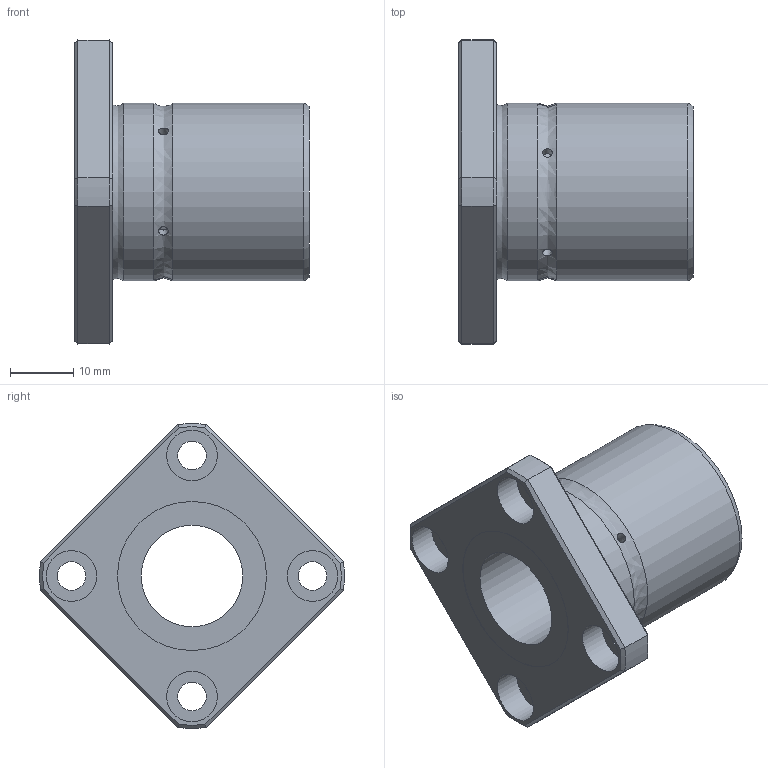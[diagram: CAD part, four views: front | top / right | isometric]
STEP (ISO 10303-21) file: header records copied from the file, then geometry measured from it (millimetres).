
FILE_DESCRIPTION((''),'2;1');
FILE_NAME('D:\製品 (図面)\カタログ用3D\リニアベアリング関連\STEP形式\LFK-OH\LFK16-OH.stp','2010-06-04T08:55:55',('Tsuchiya'),(''),'Autodesk Inventor 10','Autodesk Inventor 10','');
FILE_SCHEMA(('AUTOMOTIVE_DESIGN { 1 0 10303 214 1 1 1 1 }'));
Length unit declared in the file: millimetre
Products named in the file (1): LFK16-OH
Bounding box: 37 x 47.98 x 47.98 mm (x, y, z)
Volume: 18524.1 mm3; surface area: 8098.6 mm2
Topology: 1 solids, 1 shells, 59 faces, 120 edges, 75 vertices
Faces by surface type: cylinder 22, plane 21, cone 8, bspline 7, torus 1
Full cylindrical faces by diameter (mm): 4.5 x4, 8 x4, 16 x1, 23.5 x2, 28 x2
Entity records: 2060 total; most frequent: CARTESIAN_POINT 933, DIRECTION 218, ORIENTED_EDGE 188, EDGE_LOOP 102, AXIS2_PLACEMENT_3D 97, EDGE_CURVE 94, VERTEX_POINT 70, FACE_OUTER_BOUND 59
